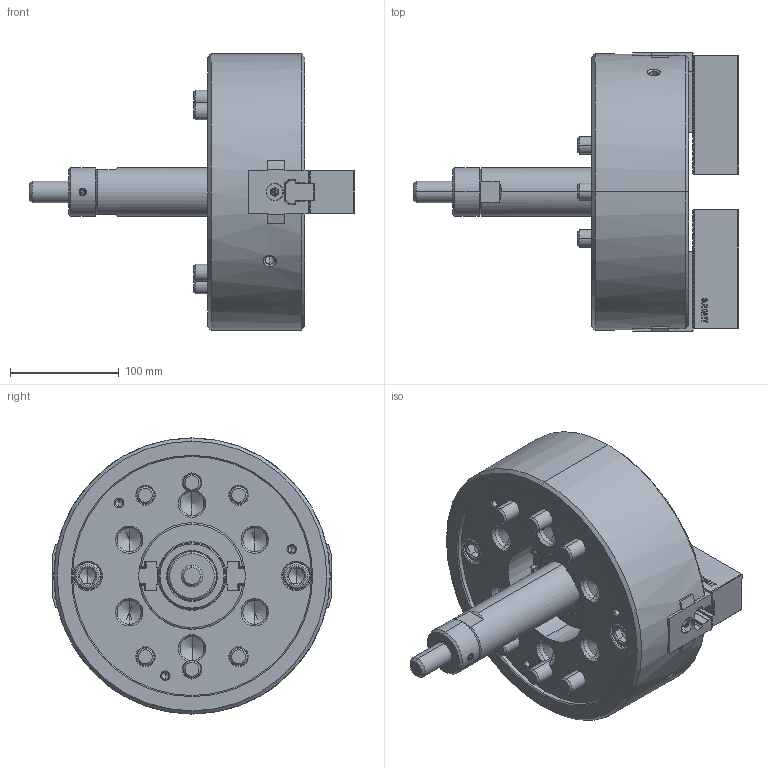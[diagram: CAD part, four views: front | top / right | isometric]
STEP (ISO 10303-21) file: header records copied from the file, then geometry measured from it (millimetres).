
FILE_DESCRIPTION (( 'STEP AP214' ), '1' );
FILE_NAME ('DT1_NLT10_OUTSIDE_VIEW_UC.STEP', '2026-03-23T07:05:57', ( '' ), ( '' ), 'SwSTEP 2.0', 'SolidWorks 2022', '' );
FILE_SCHEMA (( 'AUTOMOTIVE_DESIGN' ));
Length unit declared in the file: millimetre
Products named in the file (11): DT1_NLT10_M12x35^DT1_NLT10; DT1_NLT10_BASE^DT1_NLT10; DT1_NLT10_TNUT^DT1_NLT10; DT1_NLT10_COVER^DT1_NLT10; DT1_NLT10_M16x85^DT1_NLT10; DT1_NLT10_OUTSIDE_VIEW_UC; DT1_NLT10_DN^DT1_NLT10; Copy of 61P335751^DT1_NLT10; DT1_NLT10_DRAWSCREW^DT1_NLT10; DT1_NLT10_SOFTJAW^DT1_NLT10; DT1_NLT10_M5x12^DT1_NLT10
Assembly tree (23 placements, depth 2):
  DT1_NLT10_OUTSIDE_VIEW_UC
    DT1_NLT10_SOFTJAW^DT1_NLT10  x2
    DT1_NLT10_TNUT^DT1_NLT10  x2
    DT1_NLT10_COVER^DT1_NLT10
    DT1_NLT10_DRAWSCREW^DT1_NLT10
    Copy of 61P335751^DT1_NLT10
    DT1_NLT10_DN^DT1_NLT10
    DT1_NLT10_BASE^DT1_NLT10
    DT1_NLT10_M16x85^DT1_NLT10  x6
    DT1_NLT10_M12x35^DT1_NLT10  x4
    DT1_NLT10_M5x12^DT1_NLT10  x4
Bounding box: 299 x 255.8 x 254 mm (x, y, z)
Volume: 4550573.3 mm3; surface area: 462905.1 mm2
Topology: 23 solids, 23 shells, 4015 faces, 11341 edges, 7405 vertices
Faces by surface type: plane 2363, cylinder 1055, cone 375, bspline 174, torus 44, sphere 4
Entity records: 99264 total; most frequent: CARTESIAN_POINT 28232, ORIENTED_EDGE 16156, DIRECTION 12663, EDGE_CURVE 8078, LINE 5665, VECTOR 5665, VERTEX_POINT 5296, AXIS2_PLACEMENT_3D 3499
